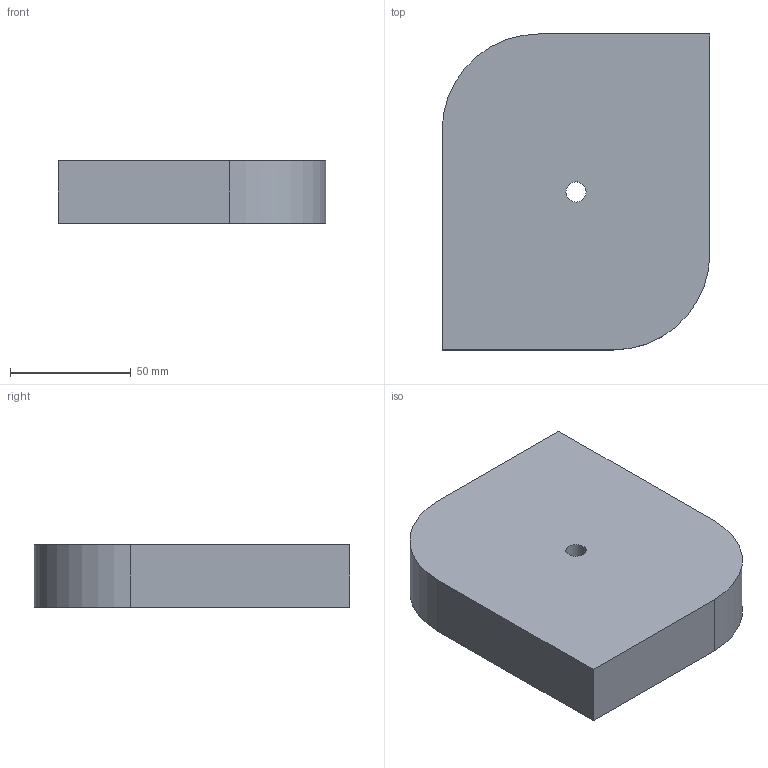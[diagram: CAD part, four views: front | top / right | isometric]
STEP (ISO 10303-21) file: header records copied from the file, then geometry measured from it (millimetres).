
FILE_DESCRIPTION(('CATIA V5 STEP Exchange'),'2;1');
FILE_NAME('C:\_Andres\UNIVERSIDAD\IQS\ASIGNATURAS\DAO\EXF\EXF-15161c\1original\Ripoll_Piera_Ej01-plano_v21.stp','2016-03-04T14:59:46+00:00',('none'),('none'),'CATIA Version 5 Release 20 SP 1 (IN-10)','CATIA V5 STEP AP203','none');
FILE_SCHEMA(('CONFIG_CONTROL_DESIGN'));
Length unit declared in the file: millimetre
Products named in the file (1): Ripoll_Piera_Ej01-plano_v21
Bounding box: 111 x 131 x 26 mm (x, y, z)
Volume: 358778.5 mm3; surface area: 39973.8 mm2
Topology: 1 solids, 1 shells, 10 faces, 24 edges, 16 vertices
Faces by surface type: plane 6, cylinder 4
Entity records: 333 total; most frequent: CARTESIAN_POINT 51, ORIENTED_EDGE 48, DIRECTION 44, EDGE_CURVE 24, AXIS2_PLACEMENT_3D 19, VECTOR 16, LINE 16, VERTEX_POINT 16
